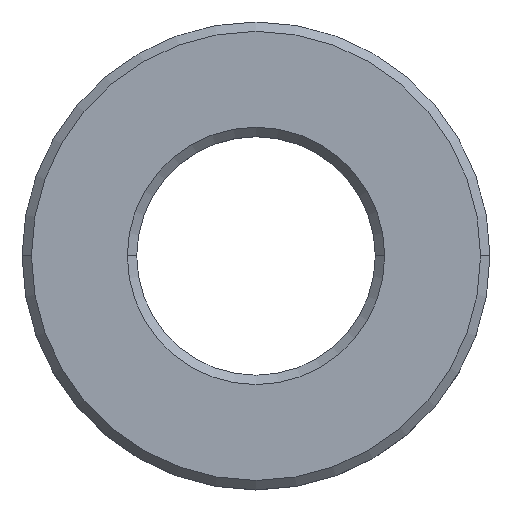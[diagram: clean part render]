
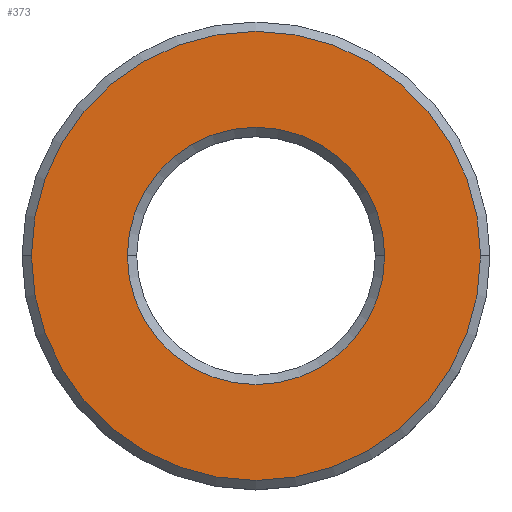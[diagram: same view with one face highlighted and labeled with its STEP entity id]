
A CAD part, top view. The second image highlights one B-rep face of the part: STEP entity #373.
In plain terms, the highlighted planar face has unit normal (0, 0, 1).
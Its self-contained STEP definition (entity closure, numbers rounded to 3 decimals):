
#5 = CIRCLE ( 'NONE', #430, 13.75 ) ;
#19 = CARTESIAN_POINT ( 'NONE',  ( 13.75, 0., 12. ) ) ;
#29 = ORIENTED_EDGE ( 'NONE', *, *, #353, .T. ) ;
#34 = EDGE_LOOP ( 'NONE', ( #337, #81 ) ) ;
#38 = CARTESIAN_POINT ( 'NONE',  ( 0., 0., 12. ) ) ;
#51 = CARTESIAN_POINT ( 'NONE',  ( -24., 0., 12. ) ) ;
#81 = ORIENTED_EDGE ( 'NONE', *, *, #313, .T. ) ;
#91 = CARTESIAN_POINT ( 'NONE',  ( -13.75, 0., 12. ) ) ;
#110 = AXIS2_PLACEMENT_3D ( 'NONE', #184, #400, #248 ) ;
#127 = FACE_BOUND ( 'NONE', #159, .T. ) ;
#146 = DIRECTION ( 'NONE',  ( 0., 0., 1. ) ) ;
#159 = EDGE_LOOP ( 'NONE', ( #29, #251 ) ) ;
#164 = EDGE_CURVE ( 'NONE', #443, #316, #405, .T. ) ;
#175 = DIRECTION ( 'NONE',  ( 1., 0., 0. ) ) ;
#176 = DIRECTION ( 'NONE',  ( 0., 0., -1. ) ) ;
#184 = CARTESIAN_POINT ( 'NONE',  ( 0., 0., 12. ) ) ;
#222 = EDGE_CURVE ( 'NONE', #410, #422, #333, .T. ) ;
#244 = CARTESIAN_POINT ( 'NONE',  ( 24., 0., 12. ) ) ;
#248 = DIRECTION ( 'NONE',  ( 1., 0., 0. ) ) ;
#251 = ORIENTED_EDGE ( 'NONE', *, *, #222, .T. ) ;
#255 = PLANE ( 'NONE',  #110 ) ;
#282 = CARTESIAN_POINT ( 'NONE',  ( 0., 0., 12. ) ) ;
#283 = CIRCLE ( 'NONE', #292, 24. ) ;
#292 = AXIS2_PLACEMENT_3D ( 'NONE', #294, #433, #321 ) ;
#294 = CARTESIAN_POINT ( 'NONE',  ( 0., 0., 12. ) ) ;
#312 = AXIS2_PLACEMENT_3D ( 'NONE', #38, #146, #384 ) ;
#313 = EDGE_CURVE ( 'NONE', #316, #443, #283, .T. ) ;
#316 = VERTEX_POINT ( 'NONE', #244 ) ;
#321 = DIRECTION ( 'NONE',  ( 1., 0., 0. ) ) ;
#333 = CIRCLE ( 'NONE', #372, 13.75 ) ;
#337 = ORIENTED_EDGE ( 'NONE', *, *, #164, .T. ) ;
#349 = CARTESIAN_POINT ( 'NONE',  ( 0., 0., 12. ) ) ;
#353 = EDGE_CURVE ( 'NONE', #422, #410, #5, .T. ) ;
#372 = AXIS2_PLACEMENT_3D ( 'NONE', #349, #176, #175 ) ;
#373 = ADVANCED_FACE ( 'NONE', ( #127, #428 ), #255, .T. ) ;
#384 = DIRECTION ( 'NONE',  ( 1., 0., 0. ) ) ;
#397 = DIRECTION ( 'NONE',  ( 1., 0., 0. ) ) ;
#400 = DIRECTION ( 'NONE',  ( 0., 0., 1. ) ) ;
#405 = CIRCLE ( 'NONE', #312, 24. ) ;
#410 = VERTEX_POINT ( 'NONE', #91 ) ;
#419 = DIRECTION ( 'NONE',  ( 0., 0., -1. ) ) ;
#422 = VERTEX_POINT ( 'NONE', #19 ) ;
#428 = FACE_OUTER_BOUND ( 'NONE', #34, .T. ) ;
#430 = AXIS2_PLACEMENT_3D ( 'NONE', #282, #419, #397 ) ;
#433 = DIRECTION ( 'NONE',  ( 0., 0., 1. ) ) ;
#443 = VERTEX_POINT ( 'NONE', #51 ) ;
